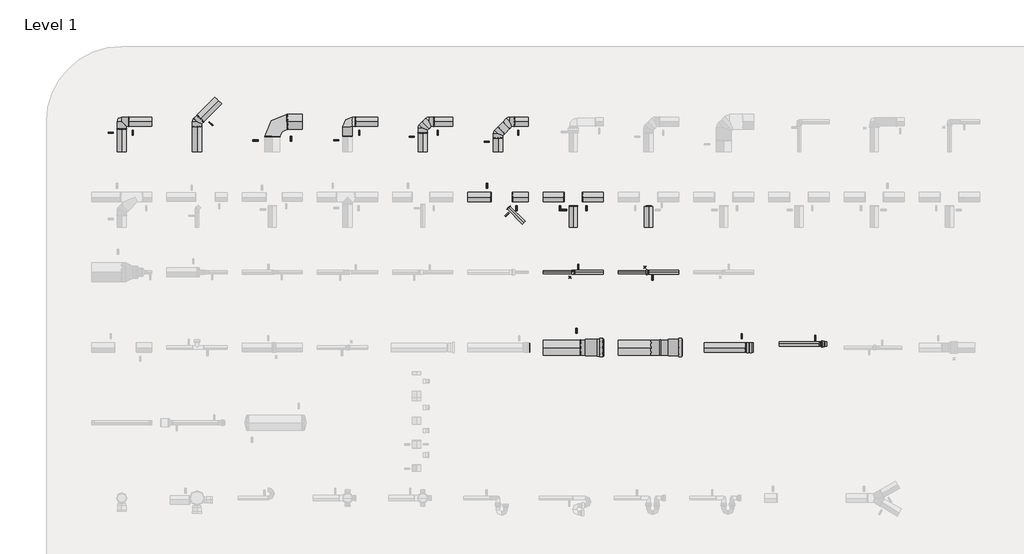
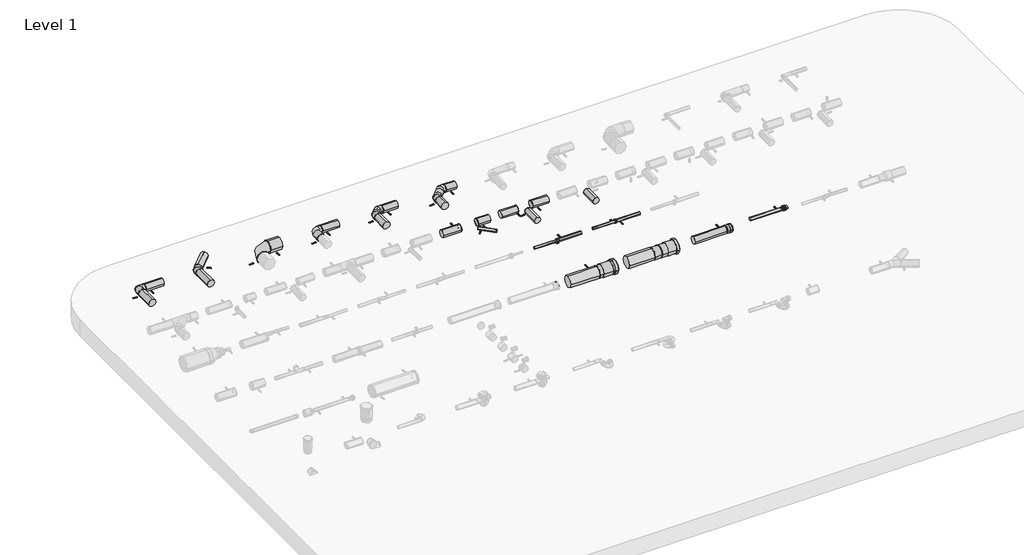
# One storey, part 4 of 6: 42 pipe fittings, 25 pipe segments.
"""IFC4 building model written with IfcOpenShell, lengths in millimetres."""

from ifc_helpers import new_model, si_unit, point, frame, frame_2d, origin, place, context, project, spatial, circle_curve, trimmed, segment, composite_curve, outline, extrude, transform, mapped, element, save
from components import pipe_fitting_c029aed5, type_2_pe80_8ce7701b, var_edb43545, var_5b2d795d, var_6aed6b33, var_c9dff895, var_a8d51ffa, nested_do_not_use_365d6919, nested_do_not_use_0367c6a2, nested_do_not_use_355ab53d, nested_do_not_use_acc8ecbe, nested_do_not_use_0e8bf35e, nested_do_not_use_2b7e7ef3, nested_do_not_use_e36be62c, nested_do_not_use_80e3b38c, nested_do_not_use_e207d9e7, welded_7e5780db, welded_b2ff7ccb, welded_75b1cb19, welded_dc74d5dd, welded_ac007b25

model = new_model("IFC4")

# Units and contexts
model_context = context("Model", 3, world=origin())
ifc_project = project(units=[si_unit("LENGTHUNIT", "METRE", prefix="MILLI")], contexts=[model_context])

# Site, building, storey
site = spatial("IfcSite", under=ifc_project)
building = spatial("IfcBuilding", under=site)
storey = spatial("IfcBuildingStorey", under=building, Name="Level 1", Elevation=0.0)

# Pipe fittings
placement = place(None, origin())
pipe_fitting_shape = pipe_fitting_c029aed5(model_context)
element("IfcPipeFitting", 1, ObjectType="PIF_HDPE weld_Akatherm : ringseal or non-welded", at=placement, inside=storey, context=model_context, shape_type="MappedRepresentation", body=[
    mapped(pipe_fitting_shape, transform((9657.7281064, 18273.6274824, 200.0), x_axis=(-1.0, 0.0, 0.0), y_axis=(0.0, -1.0, 0.0), z_axis=(0.0, 0.0, 1.0))),
])
element("IfcPipeFitting", 2, ObjectType="PIF_HDPE weld_Akatherm : ringseal or non-welded", at=placement, inside=storey, context=model_context, shape_type="MappedRepresentation", body=[
    mapped(pipe_fitting_shape, transform((8660.9781064, 18273.6274824, 200.0), x_axis=(-1.0, 0.0, 0.0), y_axis=(0.0, 1.0, 0.0), z_axis=(0.0, 0.0, -1.0))),
])
type_2_pe80_shape = type_2_pe80_8ce7701b(model_context)
element("IfcPipeFitting", 3, ObjectType="PIF_HDPE bend long leg_Akatherm : Type 2 (PE80)", at=placement, inside=storey, context=model_context, shape_type="MappedRepresentation", body=[
    mapped(type_2_pe80_shape, transform((5659.9781064, 20273.6274824, 200.0), x_axis=(-1.0, 0.0, 0.0), y_axis=(0.0, -1.0, 0.0), z_axis=(0.0, 0.0, 1.0))),
])
var_shape = var_edb43545(model_context)
element("IfcPipeFitting", 4, ObjectType="PIF_HDPE urinal connector socket_Akatherm : Var.", at=placement, inside=storey, context=model_context, shape_type="MappedRepresentation", body=[
    mapped(var_shape, transform((9660.9781064, 18273.6274824, 200.0), x_axis=(1.0, 0.0, 0.0), y_axis=(0.0, 1.0, 0.0), z_axis=(0.0, 0.0, 1.0))),
])
var_2_shape = var_5b2d795d(model_context)
element("IfcPipeFitting", 5, ObjectType="PIF_HDPE expansion socket_Akatherm : Var.", at=placement, inside=storey, context=model_context, shape_type="MappedRepresentation", body=[
    mapped(var_2_shape, transform((8793.6781064, 17273.6274824, 200.0), x_axis=(1.0, 0.0, 0.0), y_axis=(0.0, 1.0, 0.0), z_axis=(0.0, 0.0, 1.0))),
])
var_3_shape = var_6aed6b33(model_context)
element("IfcPipeFitting", 6, ObjectType="PIF_HDPE expansion socket 200 with anchor point_Akatherm : Var.", at=placement, inside=storey, context=model_context, shape_type="MappedRepresentation", body=[
    mapped(var_3_shape, transform((9787.9781064, 17273.6274824, 200.0), x_axis=(1.0, 0.0, 0.0), y_axis=(0.0, 1.0, 0.0), z_axis=(0.0, 0.0, 1.0))),
])
var_4_shape = var_c9dff895(model_context)
element("IfcPipeFitting", 7, ObjectType="PIF_HDPE double flange bushing_Akatherm : Var.", at=placement, inside=storey, context=model_context, shape_type="MappedRepresentation", body=[
    mapped(var_4_shape, transform((10998.1544434, 17273.6274824, 200.0), x_axis=(1.0, 0.0, 0.0), y_axis=(0.0, 1.0, 0.0), z_axis=(0.0, 0.0, 1.0))),
])
var_5_shape = var_a8d51ffa(model_context)
element("IfcPipeFitting", 8, ObjectType="PIF_HDPE 2x 45º bend_Akatherm : Var.", at=placement, inside=storey, context=model_context, shape_type="MappedRepresentation", body=[
    mapped(var_5_shape, transform((7659.9781064, 20273.6274824, 200.0), x_axis=(-1.0, 0.0, 0.0), y_axis=(0.0, -1.0, 0.0), z_axis=(0.0, 0.0, 1.0))),
])
nested_do_not_use_shape = nested_do_not_use_365d6919(model_context)
element("IfcPipeFitting", 9, ObjectType="ZZZ_do no use_PIF_HDPE elbow for bend assembly -SH_Akatherm : nested, do not use", at=placement, inside=storey, context=model_context, shape_type="MappedRepresentation", body=[
    mapped(nested_do_not_use_shape, transform((2659.9781064, 20273.6274824, 200.0), x_axis=(-1.0, 0.0, 0.0), y_axis=(0.0, -1.0, 0.0), z_axis=(0.0, 0.0, 1.0))),
])
nested_do_not_use_2_shape = nested_do_not_use_0367c6a2(model_context)
element("IfcPipeFitting", 10, ObjectType="ZZZ_do no use_PIF_HDPE elbow for bend assembly -SH_Akatherm : nested, do not use", at=placement, inside=storey, context=model_context, shape_type="MappedRepresentation", body=[
    mapped(nested_do_not_use_2_shape, transform((3659.9781064, 20273.6274824, 200.0), x_axis=(-0.7071067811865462, -0.7071067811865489, 0.0), y_axis=(0.7071067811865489, -0.7071067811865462, 0.0), z_axis=(0.0, 0.0, 1.0))),
])
element("IfcPipeFitting", 11, ObjectType="ZZZ_do no use_PIF_HDPE elbow for bend assembly -SH_Akatherm : nested, do not use", at=placement, inside=storey, context=model_context, shape_type="MappedRepresentation", body=[
    mapped(nested_do_not_use_2_shape, transform((6745.962291, 20273.6274824, 200.0), x_axis=(-1.0, 0.0, 0.0), y_axis=(0.0, -1.0, 0.0), z_axis=(0.0, 0.0, 1.0))),
])
element("IfcPipeFitting", 12, ObjectType="ZZZ_do no use_PIF_HDPE elbow for bend assembly -SH_Akatherm : nested, do not use", at=placement, inside=storey, context=model_context, shape_type="MappedRepresentation", body=[
    mapped(nested_do_not_use_2_shape, transform((7816.6729691, 20273.6274824, 200.0), x_axis=(-1.0, 0.0, 0.0), y_axis=(0.0, -1.0, 0.0), z_axis=(0.0, 0.0, 1.0))),
])
nested_do_not_use_3_shape = nested_do_not_use_355ab53d(model_context)
element("IfcPipeFitting", 13, ObjectType="ZZZ_do no use_PIF_HDPE elbow for bend assembly -SH_Akatherm : nested, do not use", at=placement, inside=storey, context=model_context, shape_type="MappedRepresentation", body=[
    mapped(nested_do_not_use_3_shape, transform((6659.9781064, 20187.6432978, 200.0), x_axis=(0.0, 1.0, 0.0), y_axis=(-1.0, 0.0, 0.0), z_axis=(0.0, 0.0, 1.0))),
])
element("IfcPipeFitting", 14, ObjectType="ZZZ_do no use_PIF_HDPE elbow for bend assembly -SH_Akatherm : nested, do not use", at=placement, inside=storey, context=model_context, shape_type="MappedRepresentation", body=[
    mapped(nested_do_not_use_3_shape, transform((7659.9781064, 20116.9326197, 200.0), x_axis=(0.0, 1.0, 0.0), y_axis=(-1.0, 0.0, 0.0), z_axis=(0.0, 0.0, 1.0))),
])
nested_do_not_use_4_shape = nested_do_not_use_acc8ecbe(model_context)
element("IfcPipeFitting", 15, ObjectType="ZZZ_do no use_PIF_HDPE bend for bend assembly -SH_Akatherm : nested, do not use", at=placement, inside=storey, context=model_context, shape_type="MappedRepresentation", body=[
    mapped(nested_do_not_use_4_shape, transform((4659.9781064, 20273.6274824, 200.0), x_axis=(-1.0, 0.0, 0.0), y_axis=(0.0, -1.0, 0.0), z_axis=(0.0, 0.0, 1.0))),
])
nested_do_not_use_5_shape = nested_do_not_use_0e8bf35e(model_context)
element("IfcPipeFitting", 16, ObjectType="ZZZ_do no use_PIF_HDPE rubber sleeve -SH_Akatherm : nested, do not use", at=placement, inside=storey, context=model_context, shape_type="MappedRepresentation", body=[
    mapped(nested_do_not_use_5_shape, transform((8648.9781064, 18273.6274824, 200.0), x_axis=(-1.0, 0.0, 0.0), y_axis=(0.0, -1.0, 0.0), z_axis=(0.0, 0.0, 1.0))),
])
nested_do_not_use_6_shape = nested_do_not_use_2b7e7ef3(model_context)
element("IfcPipeFitting", 17, ObjectType="ZZZ_do no use_PIF_HDPE trap connecting socket -SH_Akatherm : nested, do not use", at=placement, inside=storey, context=model_context, shape_type="MappedRepresentation", body=[
    mapped(nested_do_not_use_6_shape, transform((8659.9781064, 18273.6274824, 200.0), x_axis=(1.0, 0.0, 0.0), y_axis=(0.0, 1.0, 0.0), z_axis=(0.0, 0.0, 1.0))),
])
nested_do_not_use_7_shape = nested_do_not_use_e36be62c(model_context)
element("IfcPipeFitting", 18, ObjectType="ZZZ_do no use_PIF_HDPE screw coupler -SH_Akatherm : nested, do not use", at=placement, inside=storey, context=model_context, shape_type="MappedRepresentation", body=[
    mapped(nested_do_not_use_7_shape, transform((11961.7408778, 17321.186814, 200.0), x_axis=(1.0, 0.0, 0.0), y_axis=(0.0, 1.0, 0.0), z_axis=(0.0, 0.0, 1.0))),
])
nested_do_not_use_8_shape = nested_do_not_use_80e3b38c(model_context)
element("IfcPipeFitting", 19, ObjectType="ZZZ_do no use_PIF_HDPE flange bushing for screw coupler -SH_Akatherm : nested, do not use", at=placement, inside=storey, context=model_context, shape_type="MappedRepresentation", body=[
    mapped(nested_do_not_use_8_shape, transform((11999.2408778, 17321.186814, 200.0), x_axis=(1.0, 0.0, 0.0), y_axis=(0.0, 1.0, 0.0), z_axis=(0.0, 0.0, 1.0))),
])
nested_do_not_use_9_shape = nested_do_not_use_e207d9e7(model_context)
element("IfcPipeFitting", 20, ObjectType="ZZZ_do no use_PIF_HDPE protective cap for plugin socket -SH_Akatherm : nested, do not use", at=placement, inside=storey, context=model_context, shape_type="MappedRepresentation", body=[
    mapped(nested_do_not_use_9_shape, transform((8077.9781064, 17273.6274824, 200.0), x_axis=(1.0, 0.0, 0.0), y_axis=(0.0, 1.0, 0.0), z_axis=(0.0, 0.0, 1.0))),
])
welded_shape = welded_7e5780db(model_context)
element("IfcPipeFitting", 21, ObjectType="PIF_HDPE weld_Akatherm : welded", at=placement, inside=storey, context=model_context, shape_type="MappedRepresentation", body=[
    mapped(welded_shape, transform((2755.7781064, 20273.6274824, 200.0), x_axis=(1.0, 0.0, 0.0), y_axis=(0.0, 1.0, 0.0), z_axis=(0.0, 0.0, 1.0))),
])
element("IfcPipeFitting", 22, ObjectType="PIF_HDPE weld_Akatherm : welded", at=placement, inside=storey, context=model_context, shape_type="MappedRepresentation", body=[
    mapped(welded_shape, transform((2659.9781064, 20177.8274824, 200.0), x_axis=(0.0, -1.0, 0.0), y_axis=(1.0, 0.0, 0.0), z_axis=(0.0, 0.0, 1.0))),
])
element("IfcPipeFitting", 23, ObjectType="PIF_HDPE weld_Akatherm : welded", at=placement, inside=storey, context=model_context, shape_type="MappedRepresentation", body=[
    mapped(welded_shape, transform((6806.762291, 20273.6274824, 200.0), x_axis=(1.0, 0.0, 0.0), y_axis=(0.0, 1.0, 0.0), z_axis=(0.0, 0.0, 1.0))),
])
element("IfcPipeFitting", 24, ObjectType="PIF_HDPE weld_Akatherm : welded", at=placement, inside=storey, context=model_context, shape_type="MappedRepresentation", body=[
    mapped(welded_shape, transform((6659.9781064, 20126.8432978, 200.0), x_axis=(0.0, -1.0, 0.0), y_axis=(1.0, 0.0, 0.0), z_axis=(0.0, 0.0, 1.0))),
])
element("IfcPipeFitting", 25, ObjectType="PIF_HDPE weld_Akatherm : welded", at=placement, inside=storey, context=model_context, shape_type="MappedRepresentation", body=[
    mapped(welded_shape, transform((5765.7781064, 20273.6274824, 200.0), x_axis=(1.0, 0.0, 0.0), y_axis=(0.0, 1.0, 0.0), z_axis=(0.0, 0.0, 1.0))),
])
element("IfcPipeFitting", 26, ObjectType="PIF_HDPE weld_Akatherm : welded", at=placement, inside=storey, context=model_context, shape_type="MappedRepresentation", body=[
    mapped(welded_shape, transform((5659.9781064, 20077.8274824, 200.0), x_axis=(0.0, -1.0, 0.0), y_axis=(1.0, 0.0, 0.0), z_axis=(0.0, 0.0, 1.0))),
])
element("IfcPipeFitting", 27, ObjectType="PIF_HDPE weld_Akatherm : welded", at=placement, inside=storey, context=model_context, shape_type="MappedRepresentation", body=[
    mapped(welded_shape, transform((10950.6044434, 17273.6274824, 200.0), x_axis=(-1.0, 0.0, 0.0), y_axis=(0.0, -1.0, 0.0), z_axis=(0.0, 0.0, 1.0))),
])
element("IfcPipeFitting", 28, ObjectType="PIF_HDPE weld_Akatherm : welded", at=placement, inside=storey, context=model_context, shape_type="MappedRepresentation", body=[
    mapped(welded_shape, transform((3702.9701987, 20316.6195747, 200.0), x_axis=(0.7071067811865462, 0.7071067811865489, 0.0), y_axis=(-0.7071067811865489, 0.7071067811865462, 0.0), z_axis=(0.0, 0.0, 1.0))),
])
element("IfcPipeFitting", 29, ObjectType="PIF_HDPE weld_Akatherm : welded", at=placement, inside=storey, context=model_context, shape_type="MappedRepresentation", body=[
    mapped(welded_shape, transform((7877.4729691, 20273.6274824, 200.0), x_axis=(1.0, 0.0, 0.0), y_axis=(0.0, 1.0, 0.0), z_axis=(0.0, 0.0, 1.0))),
])
element("IfcPipeFitting", 30, ObjectType="PIF_HDPE weld_Akatherm : welded", at=placement, inside=storey, context=model_context, shape_type="MappedRepresentation", body=[
    mapped(welded_shape, transform((7659.9781064, 20056.1326197, 200.0), x_axis=(0.0, -1.0, 0.0), y_axis=(1.0, 0.0, 0.0), z_axis=(0.0, 0.0, 1.0))),
])
element("IfcPipeFitting", 31, ObjectType="PIF_HDPE weld_Akatherm : welded", at=placement, inside=storey, context=model_context, shape_type="MappedRepresentation", body=[
    mapped(welded_shape, transform((7855.7781064, 19273.6274824, 200.0), x_axis=(1.0, 0.0, 0.0), y_axis=(0.0, 1.0, 0.0), z_axis=(0.0, 0.0, 1.0))),
])
element("IfcPipeFitting", 32, ObjectType="PIF_HDPE weld_Akatherm : welded", at=placement, inside=storey, context=model_context, shape_type="MappedRepresentation", body=[
    mapped(welded_shape, transform((7564.1781064, 19273.6274824, 200.0), x_axis=(-1.0, 0.0, 0.0), y_axis=(0.0, -1.0, 0.0), z_axis=(0.0, 0.0, 1.0))),
])
element("IfcPipeFitting", 33, ObjectType="PIF_HDPE weld_Akatherm : welded", at=placement, inside=storey, context=model_context, shape_type="MappedRepresentation", body=[
    mapped(welded_shape, transform((8785.7781064, 19273.6274824, 200.0), x_axis=(1.0, 0.0, 0.0), y_axis=(0.0, 1.0, 0.0), z_axis=(0.0, 0.0, 1.0))),
])
element("IfcPipeFitting", 34, ObjectType="PIF_HDPE weld_Akatherm : welded", at=placement, inside=storey, context=model_context, shape_type="MappedRepresentation", body=[
    mapped(welded_shape, transform((8534.1781064, 19273.6274824, 200.0), x_axis=(-1.0, 0.0, 0.0), y_axis=(0.0, 1.0, 0.0), z_axis=(0.0, 0.0, -1.0))),
])
welded_2_shape = welded_b2ff7ccb(model_context)
element("IfcPipeFitting", 35, ObjectType="PIF_HDPE weld_Akatherm : welded", at=placement, inside=storey, context=model_context, shape_type="MappedRepresentation", body=[
    mapped(welded_2_shape, transform((4859.2781064, 20273.6274824, 200.0), x_axis=(1.0, 0.0, 0.0), y_axis=(0.0, 1.0, 0.0), z_axis=(0.0, 0.0, 1.0))),
])
element("IfcPipeFitting", 36, ObjectType="PIF_HDPE weld_Akatherm : welded", at=placement, inside=storey, context=model_context, shape_type="MappedRepresentation", body=[
    mapped(welded_2_shape, transform((4659.9781064, 20074.3274824, 200.0), x_axis=(0.0, -1.0, 0.0), y_axis=(1.0, 0.0, 0.0), z_axis=(0.0, 0.0, 1.0))),
])
element("IfcPipeFitting", 37, ObjectType="PIF_HDPE weld_Akatherm : welded", at=placement, inside=storey, context=model_context, shape_type="MappedRepresentation", body=[
    mapped(welded_2_shape, transform((8753.1781064, 17273.6274824, 200.0), x_axis=(-1.0, 0.0, 0.0), y_axis=(0.0, -1.0, 0.0), z_axis=(0.0, 0.0, 1.0))),
])
welded_3_shape = welded_75b1cb19(model_context)
element("IfcPipeFitting", 38, ObjectType="PIF_HDPE weld_Akatherm : welded", at=placement, inside=storey, context=model_context, shape_type="MappedRepresentation", body=[
    mapped(welded_3_shape, transform((9662.5281064, 18273.6274824, 200.0), x_axis=(1.0, 0.0, 0.0), y_axis=(0.0, 1.0, 0.0), z_axis=(0.0, 0.0, 1.0))),
])
element("IfcPipeFitting", 39, ObjectType="PIF_HDPE weld_Akatherm : welded", at=placement, inside=storey, context=model_context, shape_type="MappedRepresentation", body=[
    mapped(welded_3_shape, transform((8677.2781064, 18273.6274824, 200.0), x_axis=(1.0, 0.0, 0.0), y_axis=(0.0, -1.0, 0.0), z_axis=(0.0, 0.0, -1.0))),
])
welded_4_shape = welded_dc74d5dd(model_context)
element("IfcPipeFitting", 40, ObjectType="PIF_HDPE weld_Akatherm : welded", at=placement, inside=storey, context=model_context, shape_type="MappedRepresentation", body=[
    mapped(welded_4_shape, transform((11927.9408778, 17321.186814, 200.0), x_axis=(-1.0, 0.0, 0.0), y_axis=(0.0, -1.0, 0.0), z_axis=(0.0, 0.0, 1.0))),
])
element("IfcPipeFitting", 41, ObjectType="PIF_HDPE weld_Akatherm : welded", at=placement, inside=storey, context=model_context, shape_type="MappedRepresentation", body=[
    mapped(welded_4_shape, transform((7800.1973811, 19133.4082077, 200.0), x_axis=(0.7071067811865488, -0.7071067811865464, 0.0), y_axis=(0.7071067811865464, 0.7071067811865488, 0.0), z_axis=(0.0, 0.0, 1.0))),
])
welded_5_shape = welded_ac007b25(model_context)
element("IfcPipeFitting", 42, ObjectType="PIF_HDPE weld_Akatherm : welded", at=placement, inside=storey, context=model_context, shape_type="MappedRepresentation", body=[
    mapped(welded_5_shape, transform((8659.9781064, 19152.3274824, 200.0), x_axis=(0.0, -1.0, 0.0), y_axis=(1.0, 0.0, 0.0), z_axis=(0.0, 0.0, 1.0))),
])

# Pipe segments
element("IfcPipeSegment", 43, ObjectType="Akatherm HDPE (DN)", at=placement, inside=storey, context=model_context, shape_type="SweptSolid", body=[
    extrude(outline(composite_curve([segment(trimmed(circle_curve(frame_2d((200.0, 2659.9781064)), 62.5), [point((200.0, 2597.4781064))], [point((137.5, 2659.9781064))], False, "CARTESIAN"), True, "CONTINUOUS"), segment(trimmed(circle_curve(frame_2d((200.0, 2659.9781064)), 62.5), [point((137.5, 2659.9781064))], [point((200.0, 2722.4781064))], False, "CARTESIAN"), True, "CONTINUOUS"), segment(trimmed(circle_curve(frame_2d((200.0, 2659.9781064)), 62.5), [point((200.0, 2722.4781064))], [point((262.5, 2659.9781064))], False, "CARTESIAN"), True, "CONTINUOUS"), segment(trimmed(circle_curve(frame_2d((200.0, 2659.9781064)), 62.5), [point((262.5, 2659.9781064))], [point((200.0, 2597.4781064))], False, "CARTESIAN"), True, "CONTINUOUS")], self_intersect=False)), frame((0.0, 19873.6274824, 0.0), z_axis=(0.0, 1.0, 0.0), x_axis=(0.0, 0.0, 1.0)), (0.0, 0.0, 1.0), 308.4),
])
element("IfcPipeSegment", 44, ObjectType="Akatherm HDPE (DN)", at=placement, inside=storey, context=model_context, shape_type="SweptSolid", body=[
    extrude(outline(composite_curve([segment(trimmed(circle_curve(frame_2d((20273.6274824, 200.0)), 62.5), [point((20211.1274824, 200.0))], [point((20273.6274824, 262.5))], False, "CARTESIAN"), True, "CONTINUOUS"), segment(trimmed(circle_curve(frame_2d((20273.6274824, 200.0)), 62.5), [point((20273.6274824, 262.5))], [point((20336.1274824, 200.0))], False, "CARTESIAN"), True, "CONTINUOUS"), segment(trimmed(circle_curve(frame_2d((20273.6274824, 200.0)), 62.5), [point((20336.1274824, 200.0))], [point((20273.6274824, 137.5))], False, "CARTESIAN"), True, "CONTINUOUS"), segment(trimmed(circle_curve(frame_2d((20273.6274824, 200.0)), 62.5), [point((20273.6274824, 137.5))], [point((20211.1274824, 200.0))], False, "CARTESIAN"), True, "CONTINUOUS")], self_intersect=False)), frame((2751.5781064, 0.0, 0.0), z_axis=(1.0, 0.0, 0.0), x_axis=(0.0, 1.0, 0.0)), (0.0, 0.0, 1.0), 308.4),
])
element("IfcPipeSegment", 45, ObjectType="Akatherm HDPE (DN)", at=placement, inside=storey, context=model_context, shape_type="SweptSolid", body=[
    extrude(outline(composite_curve([segment(trimmed(circle_curve(frame_2d((200.0, 3659.9781064)), 62.5), [point((200.0, 3597.4781064))], [point((137.5, 3659.9781064))], False, "CARTESIAN"), True, "CONTINUOUS"), segment(trimmed(circle_curve(frame_2d((200.0, 3659.9781064)), 62.5), [point((137.5, 3659.9781064))], [point((200.0, 3722.4781064))], False, "CARTESIAN"), True, "CONTINUOUS"), segment(trimmed(circle_curve(frame_2d((200.0, 3659.9781064)), 62.5), [point((200.0, 3722.4781064))], [point((262.5, 3659.9781064))], False, "CARTESIAN"), True, "CONTINUOUS"), segment(trimmed(circle_curve(frame_2d((200.0, 3659.9781064)), 62.5), [point((262.5, 3659.9781064))], [point((200.0, 3597.4781064))], False, "CARTESIAN"), True, "CONTINUOUS")], self_intersect=False)), frame((0.0, 19873.6274824, 0.0), z_axis=(0.0, 1.0, 0.0), x_axis=(0.0, 0.0, 1.0)), (0.0, 0.0, 1.0), 342.7),
])
element("IfcPipeSegment", 46, ObjectType="Akatherm HDPE (DN)", at=placement, inside=storey, context=model_context, shape_type="SweptSolid", body=[
    extrude(outline(composite_curve([segment(trimmed(circle_curve(frame_2d((0.0, 62.5)), 62.5), [point((62.5, 62.5))], [point((0.0, 0.0))], False, "CARTESIAN"), True, "CONTINUOUS"), segment(trimmed(circle_curve(frame_2d((0.0, 62.5)), 62.5), [point((0.0, 0.0))], [point((-62.5, 62.5))], False, "CARTESIAN"), True, "CONTINUOUS"), segment(trimmed(circle_curve(frame_2d((0.0, 62.5)), 62.5), [point((-62.5, 62.5))], [point((0.0, 125.0))], False, "CARTESIAN"), True, "CONTINUOUS"), segment(trimmed(circle_curve(frame_2d((0.0, 62.5)), 62.5), [point((0.0, 125.0))], [point((62.5, 62.5))], False, "CARTESIAN"), True, "CONTINUOUS")], self_intersect=False)), frame((3700.0003502, 20313.6497262, 262.5), z_axis=(0.7071067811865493, 0.7071067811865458, 0.0), x_axis=(0.7071067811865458, -0.7071067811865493, 0.0)), (0.0, 0.0, 1.0), 343.4),
])
element("IfcPipeSegment", 47, ObjectType="Akatherm HDPE (DN)", at=placement, inside=storey, context=model_context, shape_type="SweptSolid", body=[
    extrude(outline(composite_curve([segment(trimmed(circle_curve(frame_2d((20273.6274824, 200.0)), 100.0), [point((20173.6274824, 200.0))], [point((20273.6274824, 300.0))], False, "CARTESIAN"), True, "CONTINUOUS"), segment(trimmed(circle_curve(frame_2d((20273.6274824, 200.0)), 100.0), [point((20273.6274824, 300.0))], [point((20373.6274824, 200.0))], False, "CARTESIAN"), True, "CONTINUOUS"), segment(trimmed(circle_curve(frame_2d((20273.6274824, 200.0)), 100.0), [point((20373.6274824, 200.0))], [point((20273.6274824, 100.0))], False, "CARTESIAN"), True, "CONTINUOUS"), segment(trimmed(circle_curve(frame_2d((20273.6274824, 200.0)), 100.0), [point((20273.6274824, 100.0))], [point((20173.6274824, 200.0))], False, "CARTESIAN"), True, "CONTINUOUS")], self_intersect=False)), frame((4853.5781064, 0.0, 0.0), z_axis=(1.0, 0.0, 0.0), x_axis=(0.0, 1.0, 0.0)), (0.0, 0.0, 1.0), 206.4),
])
element("IfcPipeSegment", 48, ObjectType="Akatherm HDPE (DN)", at=placement, inside=storey, context=model_context, shape_type="SweptSolid", body=[
    extrude(outline(composite_curve([segment(trimmed(circle_curve(frame_2d((20273.6274824, 200.0)), 62.5), [point((20211.1274824, 200.0))], [point((20273.6274824, 262.5))], False, "CARTESIAN"), True, "CONTINUOUS"), segment(trimmed(circle_curve(frame_2d((20273.6274824, 200.0)), 62.5), [point((20273.6274824, 262.5))], [point((20336.1274824, 200.0))], False, "CARTESIAN"), True, "CONTINUOUS"), segment(trimmed(circle_curve(frame_2d((20273.6274824, 200.0)), 62.5), [point((20336.1274824, 200.0))], [point((20273.6274824, 137.5))], False, "CARTESIAN"), True, "CONTINUOUS"), segment(trimmed(circle_curve(frame_2d((20273.6274824, 200.0)), 62.5), [point((20273.6274824, 137.5))], [point((20211.1274824, 200.0))], False, "CARTESIAN"), True, "CONTINUOUS")], self_intersect=False)), frame((5761.5781064, 0.0, 0.0), z_axis=(1.0, 0.0, 0.0), x_axis=(0.0, 1.0, 0.0)), (0.0, 0.0, 1.0), 298.4),
])
element("IfcPipeSegment", 49, ObjectType="Akatherm HDPE (DN)", at=placement, inside=storey, context=model_context, shape_type="SweptSolid", body=[
    extrude(outline(composite_curve([segment(trimmed(circle_curve(frame_2d((200.0, 6659.9781064)), 62.5), [point((200.0, 6597.4781064))], [point((137.5, 6659.9781064))], False, "CARTESIAN"), True, "CONTINUOUS"), segment(trimmed(circle_curve(frame_2d((200.0, 6659.9781064)), 62.5), [point((137.5, 6659.9781064))], [point((200.0, 6722.4781064))], False, "CARTESIAN"), True, "CONTINUOUS"), segment(trimmed(circle_curve(frame_2d((200.0, 6659.9781064)), 62.5), [point((200.0, 6722.4781064))], [point((262.5, 6659.9781064))], False, "CARTESIAN"), True, "CONTINUOUS"), segment(trimmed(circle_curve(frame_2d((200.0, 6659.9781064)), 62.5), [point((262.5, 6659.9781064))], [point((200.0, 6597.4781064))], False, "CARTESIAN"), True, "CONTINUOUS")], self_intersect=False)), frame((0.0, 19873.6274824, 0.0), z_axis=(0.0, 1.0, 0.0), x_axis=(0.0, 0.0, 1.0)), (0.0, 0.0, 1.0), 257.4158154),
])
element("IfcPipeSegment", 50, ObjectType="Akatherm HDPE (DN)", at=placement, inside=storey, context=model_context, shape_type="SweptSolid", body=[
    extrude(outline(composite_curve([segment(trimmed(circle_curve(frame_2d((20273.6274824, 200.0)), 62.5), [point((20211.1274824, 200.0))], [point((20273.6274824, 262.5))], False, "CARTESIAN"), True, "CONTINUOUS"), segment(trimmed(circle_curve(frame_2d((20273.6274824, 200.0)), 62.5), [point((20273.6274824, 262.5))], [point((20336.1274824, 200.0))], False, "CARTESIAN"), True, "CONTINUOUS"), segment(trimmed(circle_curve(frame_2d((20273.6274824, 200.0)), 62.5), [point((20336.1274824, 200.0))], [point((20273.6274824, 137.5))], False, "CARTESIAN"), True, "CONTINUOUS"), segment(trimmed(circle_curve(frame_2d((20273.6274824, 200.0)), 62.5), [point((20273.6274824, 137.5))], [point((20211.1274824, 200.0))], False, "CARTESIAN"), True, "CONTINUOUS")], self_intersect=False)), frame((6802.562291, 0.0, 0.0), z_axis=(1.0, 0.0, 0.0), x_axis=(0.0, 1.0, 0.0)), (0.0, 0.0, 1.0), 257.4158154),
])
element("IfcPipeSegment", 51, ObjectType="Akatherm HDPE (DN)", at=placement, inside=storey, context=model_context, shape_type="SweptSolid", body=[
    extrude(outline(composite_curve([segment(trimmed(circle_curve(frame_2d((200.0, 9659.9781064)), 55.0), [point((200.0, 9604.9781064))], [point((145.0, 9659.9781064))], False, "CARTESIAN"), True, "CONTINUOUS"), segment(trimmed(circle_curve(frame_2d((200.0, 9659.9781064)), 55.0), [point((145.0, 9659.9781064))], [point((200.0, 9714.9781064))], False, "CARTESIAN"), True, "CONTINUOUS"), segment(trimmed(circle_curve(frame_2d((200.0, 9659.9781064)), 55.0), [point((200.0, 9714.9781064))], [point((255.0, 9659.9781064))], False, "CARTESIAN"), True, "CONTINUOUS"), segment(trimmed(circle_curve(frame_2d((200.0, 9659.9781064)), 55.0), [point((255.0, 9659.9781064))], [point((200.0, 9604.9781064))], False, "CARTESIAN"), True, "CONTINUOUS")], self_intersect=False)), frame((0.0, 18873.6274824, 0.0), z_axis=(0.0, 1.0, 0.0), x_axis=(0.0, 0.0, 1.0)), (0.0, 0.0, 1.0), 282.4),
])
element("IfcPipeSegment", 52, ObjectType="Akatherm HDPE (DN)", at=placement, inside=storey, context=model_context, shape_type="SweptSolid", body=[
    extrude(outline(composite_curve([segment(trimmed(circle_curve(frame_2d((18273.6274824, 200.0)), 20.0), [point((18253.6274824, 200.0))], [point((18273.6274824, 220.0))], False, "CARTESIAN"), True, "CONTINUOUS"), segment(trimmed(circle_curve(frame_2d((18273.6274824, 200.0)), 20.0), [point((18273.6274824, 220.0))], [point((18293.6274824, 200.0))], False, "CARTESIAN"), True, "CONTINUOUS"), segment(trimmed(circle_curve(frame_2d((18273.6274824, 200.0)), 20.0), [point((18293.6274824, 200.0))], [point((18273.6274824, 180.0))], False, "CARTESIAN"), True, "CONTINUOUS"), segment(trimmed(circle_curve(frame_2d((18273.6274824, 200.0)), 20.0), [point((18273.6274824, 180.0))], [point((18253.6274824, 200.0))], False, "CARTESIAN"), True, "CONTINUOUS")], self_intersect=False)), frame((9259.9781064, 0.0, 0.0), z_axis=(1.0, 0.0, 0.0), x_axis=(0.0, 1.0, 0.0)), (0.0, 0.0, 1.0), 397.75),
])
element("IfcPipeSegment", 53, ObjectType="Akatherm HDPE (DN)", at=placement, inside=storey, context=model_context, shape_type="SweptSolid", body=[
    extrude(outline(composite_curve([segment(trimmed(circle_curve(frame_2d((18273.6274824, 200.0)), 25.0), [point((18248.6274824, 200.0))], [point((18273.6274824, 225.0))], False, "CARTESIAN"), True, "CONTINUOUS"), segment(trimmed(circle_curve(frame_2d((18273.6274824, 200.0)), 25.0), [point((18273.6274824, 225.0))], [point((18298.6274824, 200.0))], False, "CARTESIAN"), True, "CONTINUOUS"), segment(trimmed(circle_curve(frame_2d((18273.6274824, 200.0)), 25.0), [point((18298.6274824, 200.0))], [point((18273.6274824, 175.0))], False, "CARTESIAN"), True, "CONTINUOUS"), segment(trimmed(circle_curve(frame_2d((18273.6274824, 200.0)), 25.0), [point((18273.6274824, 175.0))], [point((18248.6274824, 200.0))], False, "CARTESIAN"), True, "CONTINUOUS")], self_intersect=False)), frame((9660.8281064, 0.0, 0.0), z_axis=(1.0, 0.0, 0.0), x_axis=(0.0, 1.0, 0.0)), (0.0, 0.0, 1.0), 399.15),
])
element("IfcPipeSegment", 54, ObjectType="Akatherm HDPE (DN)", at=placement, inside=storey, context=model_context, shape_type="SweptSolid", body=[
    extrude(outline(composite_curve([segment(trimmed(circle_curve(frame_2d((17273.6274824, 200.0)), 100.0), [point((17373.6274824, 200.0))], [point((17273.6274824, 100.0))], False, "CARTESIAN"), True, "CONTINUOUS"), segment(trimmed(circle_curve(frame_2d((17273.6274824, 200.0)), 100.0), [point((17273.6274824, 100.0))], [point((17173.6274824, 200.0))], False, "CARTESIAN"), True, "CONTINUOUS"), segment(trimmed(circle_curve(frame_2d((17273.6274824, 200.0)), 100.0), [point((17173.6274824, 200.0))], [point((17273.6274824, 300.0))], False, "CARTESIAN"), True, "CONTINUOUS"), segment(trimmed(circle_curve(frame_2d((17273.6274824, 200.0)), 100.0), [point((17273.6274824, 300.0))], [point((17373.6274824, 200.0))], False, "CARTESIAN"), True, "CONTINUOUS")], self_intersect=False)), frame((8259.9781064, 0.0, 0.0), z_axis=(1.0, 0.0, 0.0), x_axis=(0.0, 1.0, 0.0)), (0.0, 0.0, 1.0), 498.9),
])
element("IfcPipeSegment", 55, ObjectType="Akatherm HDPE (DN)", at=placement, inside=storey, context=model_context, shape_type="SweptSolid", body=[
    extrude(outline(composite_curve([segment(trimmed(circle_curve(frame_2d((17273.6274824, 200.0)), 100.0), [point((17373.6274824, 200.0))], [point((17273.6274824, 100.0))], False, "CARTESIAN"), True, "CONTINUOUS"), segment(trimmed(circle_curve(frame_2d((17273.6274824, 200.0)), 100.0), [point((17273.6274824, 100.0))], [point((17173.6274824, 200.0))], False, "CARTESIAN"), True, "CONTINUOUS"), segment(trimmed(circle_curve(frame_2d((17273.6274824, 200.0)), 100.0), [point((17173.6274824, 200.0))], [point((17273.6274824, 300.0))], False, "CARTESIAN"), True, "CONTINUOUS"), segment(trimmed(circle_curve(frame_2d((17273.6274824, 200.0)), 100.0), [point((17273.6274824, 300.0))], [point((17373.6274824, 200.0))], False, "CARTESIAN"), True, "CONTINUOUS")], self_intersect=False)), frame((9259.9781064, 0.0, 0.0), z_axis=(1.0, 0.0, 0.0), x_axis=(0.0, 1.0, 0.0)), (0.0, 0.0, 1.0), 439.4),
])
element("IfcPipeSegment", 56, ObjectType="Akatherm HDPE (DN)", at=placement, inside=storey, context=model_context, shape_type="SweptSolid", body=[
    extrude(outline(composite_curve([segment(trimmed(circle_curve(frame_2d((17273.6274824, 200.0)), 62.5), [point((17211.1274824, 200.0))], [point((17273.6274824, 262.5))], False, "CARTESIAN"), True, "CONTINUOUS"), segment(trimmed(circle_curve(frame_2d((17273.6274824, 200.0)), 62.5), [point((17273.6274824, 262.5))], [point((17336.1274824, 200.0))], False, "CARTESIAN"), True, "CONTINUOUS"), segment(trimmed(circle_curve(frame_2d((17273.6274824, 200.0)), 62.5), [point((17336.1274824, 200.0))], [point((17273.6274824, 137.5))], False, "CARTESIAN"), True, "CONTINUOUS"), segment(trimmed(circle_curve(frame_2d((17273.6274824, 200.0)), 62.5), [point((17273.6274824, 137.5))], [point((17211.1274824, 200.0))], False, "CARTESIAN"), True, "CONTINUOUS")], self_intersect=False)), frame((10398.1544434, 0.0, 0.0), z_axis=(1.0, 0.0, 0.0), x_axis=(0.0, 1.0, 0.0)), (0.0, 0.0, 1.0), 556.65),
])
element("IfcPipeSegment", 57, ObjectType="Akatherm HDPE (DN)", at=placement, inside=storey, context=model_context, shape_type="SweptSolid", body=[
    extrude(outline(composite_curve([segment(trimmed(circle_curve(frame_2d((17321.186814, 200.0)), 28.0), [point((17293.186814, 200.0))], [point((17321.186814, 228.0))], False, "CARTESIAN"), True, "CONTINUOUS"), segment(trimmed(circle_curve(frame_2d((17321.186814, 200.0)), 28.0), [point((17321.186814, 228.0))], [point((17349.186814, 200.0))], False, "CARTESIAN"), True, "CONTINUOUS"), segment(trimmed(circle_curve(frame_2d((17321.186814, 200.0)), 28.0), [point((17349.186814, 200.0))], [point((17321.186814, 172.0))], False, "CARTESIAN"), True, "CONTINUOUS"), segment(trimmed(circle_curve(frame_2d((17321.186814, 200.0)), 28.0), [point((17321.186814, 172.0))], [point((17293.186814, 200.0))], False, "CARTESIAN"), True, "CONTINUOUS")], self_intersect=False)), frame((11398.1544434, 0.0, 0.0), z_axis=(1.0, 0.0, 0.0), x_axis=(0.0, 1.0, 0.0)), (0.0, 0.0, 1.0), 531.4864345),
])
element("IfcPipeSegment", 58, ObjectType="Akatherm HDPE (DN)", at=placement, inside=storey, context=model_context, shape_type="SweptSolid", body=[
    extrude(outline(composite_curve([segment(trimmed(circle_curve(frame_2d((18273.6274824, 200.0)), 20.0), [point((18253.6274824, 200.0))], [point((18273.6274824, 220.0))], False, "CARTESIAN"), True, "CONTINUOUS"), segment(trimmed(circle_curve(frame_2d((18273.6274824, 200.0)), 20.0), [point((18273.6274824, 220.0))], [point((18293.6274824, 200.0))], False, "CARTESIAN"), True, "CONTINUOUS"), segment(trimmed(circle_curve(frame_2d((18273.6274824, 200.0)), 20.0), [point((18293.6274824, 200.0))], [point((18273.6274824, 180.0))], False, "CARTESIAN"), True, "CONTINUOUS"), segment(trimmed(circle_curve(frame_2d((18273.6274824, 200.0)), 20.0), [point((18273.6274824, 180.0))], [point((18253.6274824, 200.0))], False, "CARTESIAN"), True, "CONTINUOUS")], self_intersect=False)), frame((8259.9781064, 0.0, 0.0), z_axis=(1.0, 0.0, 0.0), x_axis=(0.0, 1.0, 0.0)), (0.0, 0.0, 1.0), 401.0),
])
element("IfcPipeSegment", 59, ObjectType="Akatherm HDPE (DN)", at=placement, inside=storey, context=model_context, shape_type="SweptSolid", body=[
    extrude(outline(composite_curve([segment(trimmed(circle_curve(frame_2d((18273.6274824, 200.0)), 25.0), [point((18248.6274824, 200.0))], [point((18273.6274824, 225.0))], False, "CARTESIAN"), True, "CONTINUOUS"), segment(trimmed(circle_curve(frame_2d((18273.6274824, 200.0)), 25.0), [point((18273.6274824, 225.0))], [point((18298.6274824, 200.0))], False, "CARTESIAN"), True, "CONTINUOUS"), segment(trimmed(circle_curve(frame_2d((18273.6274824, 200.0)), 25.0), [point((18298.6274824, 200.0))], [point((18273.6274824, 175.0))], False, "CARTESIAN"), True, "CONTINUOUS"), segment(trimmed(circle_curve(frame_2d((18273.6274824, 200.0)), 25.0), [point((18273.6274824, 175.0))], [point((18248.6274824, 200.0))], False, "CARTESIAN"), True, "CONTINUOUS")], self_intersect=False)), frame((8675.5781064, 0.0, 0.0), z_axis=(1.0, 0.0, 0.0), x_axis=(0.0, 1.0, 0.0)), (0.0, 0.0, 1.0), 384.4),
])
element("IfcPipeSegment", 60, ObjectType="Akatherm HDPE (DN)", at=placement, inside=storey, context=model_context, shape_type="SweptSolid", body=[
    extrude(outline(composite_curve([segment(trimmed(circle_curve(frame_2d((200.0, 7659.9781064)), 62.5), [point((200.0, 7597.4781064))], [point((137.5, 7659.9781064))], False, "CARTESIAN"), True, "CONTINUOUS"), segment(trimmed(circle_curve(frame_2d((200.0, 7659.9781064)), 62.5), [point((137.5, 7659.9781064))], [point((200.0, 7722.4781064))], False, "CARTESIAN"), True, "CONTINUOUS"), segment(trimmed(circle_curve(frame_2d((200.0, 7659.9781064)), 62.5), [point((200.0, 7722.4781064))], [point((262.5, 7659.9781064))], False, "CARTESIAN"), True, "CONTINUOUS"), segment(trimmed(circle_curve(frame_2d((200.0, 7659.9781064)), 62.5), [point((262.5, 7659.9781064))], [point((200.0, 7597.4781064))], False, "CARTESIAN"), True, "CONTINUOUS")], self_intersect=False)), frame((0.0, 19873.6274824, 0.0), z_axis=(0.0, 1.0, 0.0), x_axis=(0.0, 0.0, 1.0)), (0.0, 0.0, 1.0), 186.7051373),
])
element("IfcPipeSegment", 61, ObjectType="Akatherm HDPE (DN)", at=placement, inside=storey, context=model_context, shape_type="SweptSolid", body=[
    extrude(outline(composite_curve([segment(trimmed(circle_curve(frame_2d((20273.6274824, 200.0)), 62.5), [point((20211.1274824, 200.0))], [point((20273.6274824, 262.5))], False, "CARTESIAN"), True, "CONTINUOUS"), segment(trimmed(circle_curve(frame_2d((20273.6274824, 200.0)), 62.5), [point((20273.6274824, 262.5))], [point((20336.1274824, 200.0))], False, "CARTESIAN"), True, "CONTINUOUS"), segment(trimmed(circle_curve(frame_2d((20273.6274824, 200.0)), 62.5), [point((20336.1274824, 200.0))], [point((20273.6274824, 137.5))], False, "CARTESIAN"), True, "CONTINUOUS"), segment(trimmed(circle_curve(frame_2d((20273.6274824, 200.0)), 62.5), [point((20273.6274824, 137.5))], [point((20211.1274824, 200.0))], False, "CARTESIAN"), True, "CONTINUOUS")], self_intersect=False)), frame((7873.2729691, 0.0, 0.0), z_axis=(1.0, 0.0, 0.0), x_axis=(0.0, 1.0, 0.0)), (0.0, 0.0, 1.0), 186.7051373),
])
element("IfcPipeSegment", 62, ObjectType="Akatherm HDPE (DN)", at=placement, inside=storey, context=model_context, shape_type="SweptSolid", body=[
    extrude(outline(composite_curve([segment(trimmed(circle_curve(frame_2d((0.0, -28.0)), 28.0), [point((-28.0, -28.0))], [point((0.0, 0.0))], False, "CARTESIAN"), True, "CONTINUOUS"), segment(trimmed(circle_curve(frame_2d((0.0, -28.0)), 28.0), [point((0.0, 0.0))], [point((28.0, -28.0))], False, "CARTESIAN"), True, "CONTINUOUS"), segment(trimmed(circle_curve(frame_2d((0.0, -28.0)), 28.0), [point((28.0, -28.0))], [point((0.0, -56.0))], False, "CARTESIAN"), True, "CONTINUOUS"), segment(trimmed(circle_curve(frame_2d((0.0, -28.0)), 28.0), [point((0.0, -56.0))], [point((-28.0, -28.0))], False, "CARTESIAN"), True, "CONTINUOUS")], self_intersect=False)), frame((7999.3893614, 18934.2162274, 172.0), z_axis=(-0.7071067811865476, 0.7071067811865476, 0.0), x_axis=(0.7071067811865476, 0.7071067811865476, 0.0)), (0.0, 0.0, 1.0), 283.4),
])
element("IfcPipeSegment", 63, ObjectType="Akatherm HDPE (DN)", at=placement, inside=storey, context=model_context, shape_type="SweptSolid", body=[
    extrude(outline(composite_curve([segment(trimmed(circle_curve(frame_2d((19273.6274824, 200.0)), 62.5), [point((19211.1274824, 200.0))], [point((19273.6274824, 262.5))], False, "CARTESIAN"), True, "CONTINUOUS"), segment(trimmed(circle_curve(frame_2d((19273.6274824, 200.0)), 62.5), [point((19273.6274824, 262.5))], [point((19336.1274824, 200.0))], False, "CARTESIAN"), True, "CONTINUOUS"), segment(trimmed(circle_curve(frame_2d((19273.6274824, 200.0)), 62.5), [point((19336.1274824, 200.0))], [point((19273.6274824, 137.5))], False, "CARTESIAN"), True, "CONTINUOUS"), segment(trimmed(circle_curve(frame_2d((19273.6274824, 200.0)), 62.5), [point((19273.6274824, 137.5))], [point((19211.1274824, 200.0))], False, "CARTESIAN"), True, "CONTINUOUS")], self_intersect=False)), frame((7851.5781064, 0.0, 0.0), z_axis=(1.0, 0.0, 0.0), x_axis=(0.0, 1.0, 0.0)), (0.0, 0.0, 1.0), 208.4),
])
element("IfcPipeSegment", 64, ObjectType="Akatherm HDPE (DN)", at=placement, inside=storey, context=model_context, shape_type="SweptSolid", body=[
    extrude(outline(composite_curve([segment(trimmed(circle_curve(frame_2d((19273.6274824, 200.0)), 62.5), [point((19211.1274824, 200.0))], [point((19273.6274824, 262.5))], False, "CARTESIAN"), True, "CONTINUOUS"), segment(trimmed(circle_curve(frame_2d((19273.6274824, 200.0)), 62.5), [point((19273.6274824, 262.5))], [point((19336.1274824, 200.0))], False, "CARTESIAN"), True, "CONTINUOUS"), segment(trimmed(circle_curve(frame_2d((19273.6274824, 200.0)), 62.5), [point((19336.1274824, 200.0))], [point((19273.6274824, 137.5))], False, "CARTESIAN"), True, "CONTINUOUS"), segment(trimmed(circle_curve(frame_2d((19273.6274824, 200.0)), 62.5), [point((19273.6274824, 137.5))], [point((19211.1274824, 200.0))], False, "CARTESIAN"), True, "CONTINUOUS")], self_intersect=False)), frame((7259.9781064, 0.0, 0.0), z_axis=(1.0, 0.0, 0.0), x_axis=(0.0, 1.0, 0.0)), (0.0, 0.0, 1.0), 308.4),
])
element("IfcPipeSegment", 65, ObjectType="Akatherm HDPE (DN)", at=placement, inside=storey, context=model_context, shape_type="SweptSolid", body=[
    extrude(outline(composite_curve([segment(trimmed(circle_curve(frame_2d((200.0, 8659.9781064)), 55.0), [point((200.0, 8604.9781064))], [point((145.0, 8659.9781064))], False, "CARTESIAN"), True, "CONTINUOUS"), segment(trimmed(circle_curve(frame_2d((200.0, 8659.9781064)), 55.0), [point((145.0, 8659.9781064))], [point((200.0, 8714.9781064))], False, "CARTESIAN"), True, "CONTINUOUS"), segment(trimmed(circle_curve(frame_2d((200.0, 8659.9781064)), 55.0), [point((200.0, 8714.9781064))], [point((255.0, 8659.9781064))], False, "CARTESIAN"), True, "CONTINUOUS"), segment(trimmed(circle_curve(frame_2d((200.0, 8659.9781064)), 55.0), [point((255.0, 8659.9781064))], [point((200.0, 8604.9781064))], False, "CARTESIAN"), True, "CONTINUOUS")], self_intersect=False)), frame((0.0, 18873.6274824, 0.0), z_axis=(0.0, 1.0, 0.0), x_axis=(0.0, 0.0, 1.0)), (0.0, 0.0, 1.0), 282.4),
])
element("IfcPipeSegment", 66, ObjectType="Akatherm HDPE (DN)", at=placement, inside=storey, context=model_context, shape_type="SweptSolid", body=[
    extrude(outline(composite_curve([segment(trimmed(circle_curve(frame_2d((19273.6274824, 200.0)), 62.5), [point((19211.1274824, 200.0))], [point((19273.6274824, 262.5))], False, "CARTESIAN"), True, "CONTINUOUS"), segment(trimmed(circle_curve(frame_2d((19273.6274824, 200.0)), 62.5), [point((19273.6274824, 262.5))], [point((19336.1274824, 200.0))], False, "CARTESIAN"), True, "CONTINUOUS"), segment(trimmed(circle_curve(frame_2d((19273.6274824, 200.0)), 62.5), [point((19336.1274824, 200.0))], [point((19273.6274824, 137.5))], False, "CARTESIAN"), True, "CONTINUOUS"), segment(trimmed(circle_curve(frame_2d((19273.6274824, 200.0)), 62.5), [point((19273.6274824, 137.5))], [point((19211.1274824, 200.0))], False, "CARTESIAN"), True, "CONTINUOUS")], self_intersect=False)), frame((8781.5781064, 0.0, 0.0), z_axis=(1.0, 0.0, 0.0), x_axis=(0.0, 1.0, 0.0)), (0.0, 0.0, 1.0), 278.4),
])
element("IfcPipeSegment", 67, ObjectType="Akatherm HDPE (DN)", at=placement, inside=storey, context=model_context, shape_type="SweptSolid", body=[
    extrude(outline(composite_curve([segment(trimmed(circle_curve(frame_2d((19273.6274824, 200.0)), 62.5), [point((19211.1274824, 200.0))], [point((19273.6274824, 262.5))], False, "CARTESIAN"), True, "CONTINUOUS"), segment(trimmed(circle_curve(frame_2d((19273.6274824, 200.0)), 62.5), [point((19273.6274824, 262.5))], [point((19336.1274824, 200.0))], False, "CARTESIAN"), True, "CONTINUOUS"), segment(trimmed(circle_curve(frame_2d((19273.6274824, 200.0)), 62.5), [point((19336.1274824, 200.0))], [point((19273.6274824, 137.5))], False, "CARTESIAN"), True, "CONTINUOUS"), segment(trimmed(circle_curve(frame_2d((19273.6274824, 200.0)), 62.5), [point((19273.6274824, 137.5))], [point((19211.1274824, 200.0))], False, "CARTESIAN"), True, "CONTINUOUS")], self_intersect=False)), frame((8259.9781064, 0.0, 0.0), z_axis=(1.0, 0.0, 0.0), x_axis=(0.0, 1.0, 0.0)), (0.0, 0.0, 1.0), 278.4),
])

save(model, "model.ifc")
